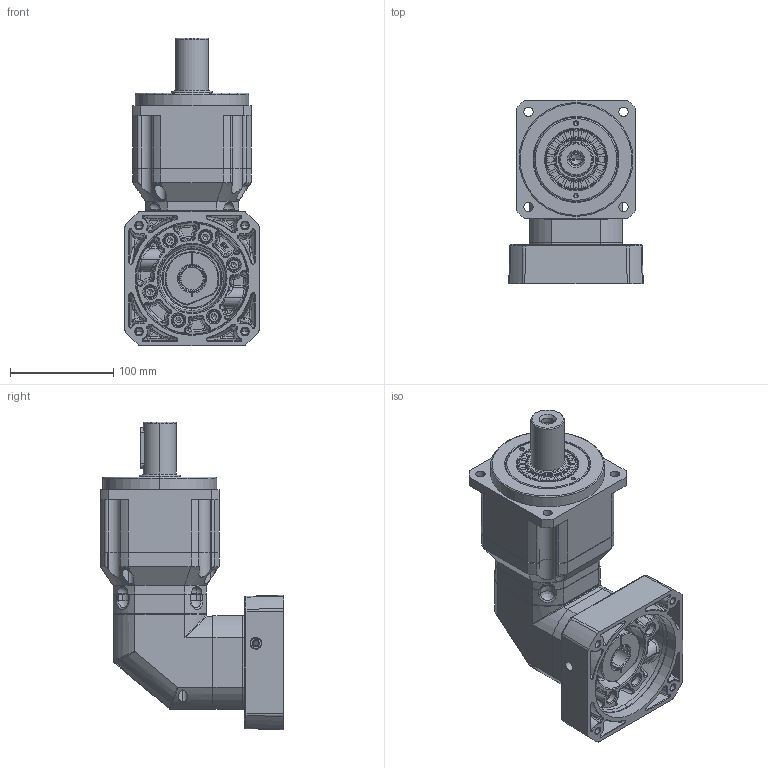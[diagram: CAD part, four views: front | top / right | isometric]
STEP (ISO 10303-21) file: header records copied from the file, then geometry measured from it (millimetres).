
FILE_DESCRIPTION (( 'STEP AP214' ), '1' );
FILE_NAME ('FABR115M1-L2-22-110-145-M8-59.STEP', '2021-04-26T06:06:49', ( '微软用户' ), ( '微软中国' ), 'SwSTEP 2.0', 'SolidWorks 2014', '' );
FILE_SCHEMA (( 'AUTOMOTIVE_DESIGN' ));
Length unit declared in the file: millimetre
Products named in the file (42): す瑩10X40_3; M6-14_1; 隅弇覃淕杶PAR115D_1; 一级内齿圈壳体PAR090D; M6-14樓粟菜; 怀堤俴陎殤PAR115D_3; 蚐猾40x58X5_1; 输出内齿圈壳体PAR115D_1; M5-12樓粟菜; FABR115M1-L2-22-110-145-M8-59; 输入轴锁紧环 26-52-14; 输入轴PAR090-5M1-22; 输入法兰PAR090M1-110-145-M8; 输入端壳体PAR090M1; 怀堤傷褲极PAR090D; 珨撰眻褒眊极PAR090D+菜え
Assembly tree (26 placements, depth 2):
  M6-14_1
  一级内齿圈壳体PAR090D
  M6-14樓粟菜
  蚐猾40x58X5_1
  M6-14樓粟菜
Bounding box: 130 x 177.5 x 297.25 mm (x, y, z)
Volume: 2021758.8 mm3; surface area: 334562.4 mm2
Topology: 15 solids, 37 shells, 1587 faces, 3918 edges, 2420 vertices
Faces by surface type: cylinder 437, bspline 437, plane 432, cone 251, torus 20, sphere 10
Entity records: 60429 total; most frequent: CARTESIAN_POINT 31313, ORIENTED_EDGE 6370, DIRECTION 5197, EDGE_CURVE 3207, AXIS2_PLACEMENT_3D 2082, VERTEX_POINT 2002, EDGE_LOOP 1435, FACE_OUTER_BOUND 1314
